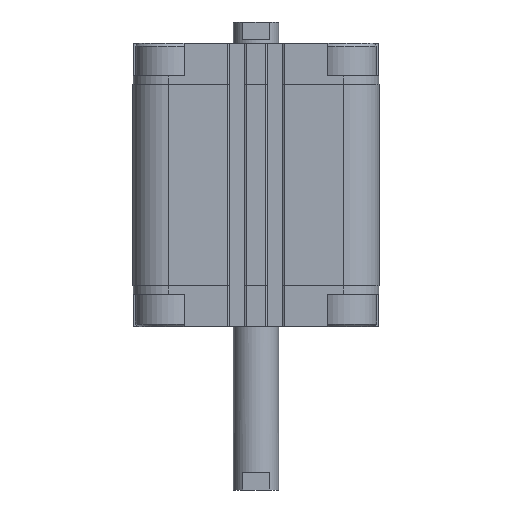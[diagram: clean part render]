
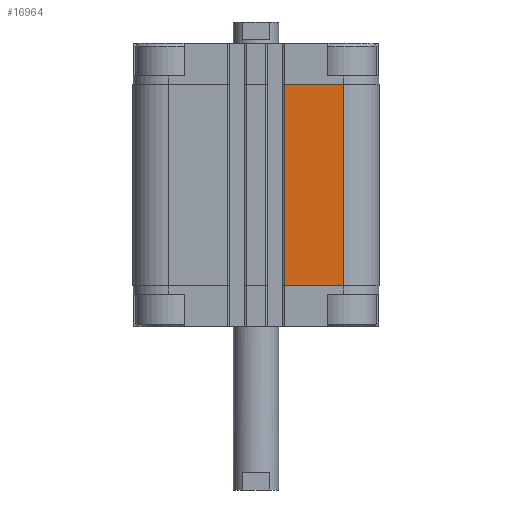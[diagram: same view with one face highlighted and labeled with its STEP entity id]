
A CAD part, front view. The second image highlights one B-rep face of the part: STEP entity #16964.
In plain terms, the highlighted planar face has unit normal (0, -1, 0).
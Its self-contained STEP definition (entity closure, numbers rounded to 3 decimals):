
#347 = EDGE_CURVE ( 'NONE', #13399, #392, #8392, .T. ) ;
#392 = VERTEX_POINT ( 'NONE', #4116 ) ;
#1857 = VECTOR ( 'NONE', #12761, 1000. ) ;
#2194 = DIRECTION ( 'NONE',  ( -1., 0., 0. ) ) ;
#2277 = CARTESIAN_POINT ( 'NONE',  ( 10.05, -43.5, -85.5 ) ) ;
#2451 = VECTOR ( 'NONE', #5144, 1000. ) ;
#2759 = CARTESIAN_POINT ( 'NONE',  ( 10.05, -43.5, -14.5 ) ) ;
#3493 = ORIENTED_EDGE ( 'NONE', *, *, #10204, .F. ) ;
#4116 = CARTESIAN_POINT ( 'NONE',  ( 31., -43.5, -85.5 ) ) ;
#4294 = EDGE_LOOP ( 'NONE', ( #3493, #15855, #18825, #7646 ) ) ;
#5144 = DIRECTION ( 'NONE',  ( 0., 0., 1. ) ) ;
#5267 = DIRECTION ( 'NONE',  ( 0., 0., 1. ) ) ;
#6418 = VERTEX_POINT ( 'NONE', #15541 ) ;
#7646 = ORIENTED_EDGE ( 'NONE', *, *, #15462, .T. ) ;
#7963 = CARTESIAN_POINT ( 'NONE',  ( 10.05, -43.5, -85.5 ) ) ;
#8392 = LINE ( 'NONE', #18898, #1857 ) ;
#8916 = VECTOR ( 'NONE', #19567, 1000. ) ;
#10204 = EDGE_CURVE ( 'NONE', #18661, #6418, #13517, .T. ) ;
#10747 = AXIS2_PLACEMENT_3D ( 'NONE', #17275, #15792, #2194 ) ;
#10860 = CARTESIAN_POINT ( 'NONE',  ( 10.05, -43.5, -14.5 ) ) ;
#11138 = FACE_OUTER_BOUND ( 'NONE', #4294, .T. ) ;
#11224 = PLANE ( 'NONE',  #10747 ) ;
#12761 = DIRECTION ( 'NONE',  ( 1., 0., 0. ) ) ;
#13056 = LINE ( 'NONE', #17514, #2451 ) ;
#13399 = VERTEX_POINT ( 'NONE', #7963 ) ;
#13517 = LINE ( 'NONE', #10860, #8916 ) ;
#15462 = EDGE_CURVE ( 'NONE', #392, #6418, #13056, .T. ) ;
#15541 = CARTESIAN_POINT ( 'NONE',  ( 31., -43.5, -14.5 ) ) ;
#15792 = DIRECTION ( 'NONE',  ( 0., -1., 0. ) ) ;
#15855 = ORIENTED_EDGE ( 'NONE', *, *, #18600, .F. ) ;
#15866 = VECTOR ( 'NONE', #5267, 1000. ) ;
#16964 = ADVANCED_FACE ( 'NONE', ( #11138 ), #11224, .T. ) ;
#17275 = CARTESIAN_POINT ( 'NONE',  ( 10.05, -43.5, -85.5 ) ) ;
#17514 = CARTESIAN_POINT ( 'NONE',  ( 31., -43.5, -85.5 ) ) ;
#18600 = EDGE_CURVE ( 'NONE', #13399, #18661, #18836, .T. ) ;
#18661 = VERTEX_POINT ( 'NONE', #2759 ) ;
#18825 = ORIENTED_EDGE ( 'NONE', *, *, #347, .T. ) ;
#18836 = LINE ( 'NONE', #2277, #15866 ) ;
#18898 = CARTESIAN_POINT ( 'NONE',  ( 10.05, -43.5, -85.5 ) ) ;
#19567 = DIRECTION ( 'NONE',  ( 1., 0., 0. ) ) ;
